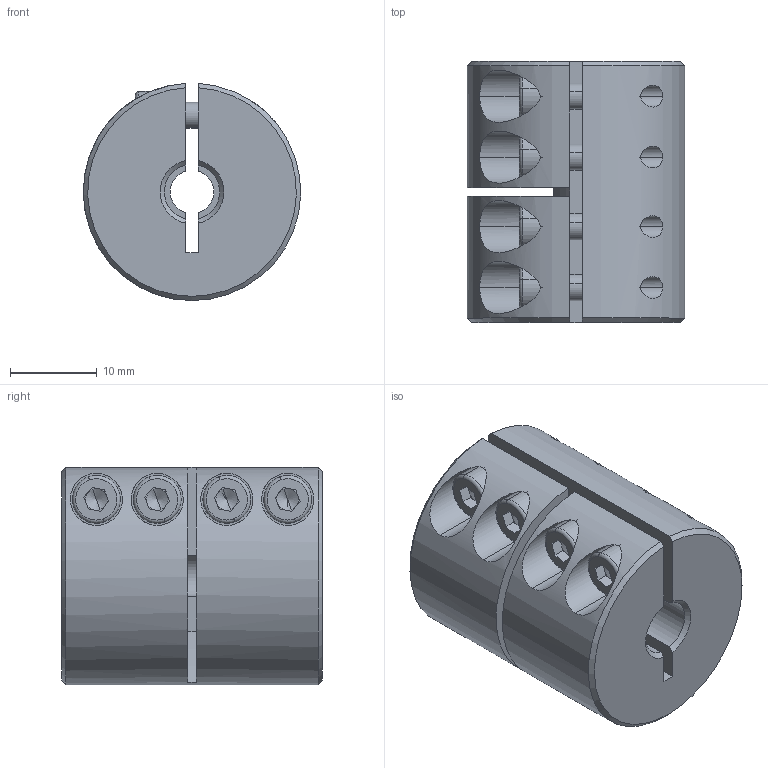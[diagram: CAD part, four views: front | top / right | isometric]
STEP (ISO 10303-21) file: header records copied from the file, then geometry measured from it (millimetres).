
FILE_DESCRIPTION (( 'STEP AP214' ), '1' );
FILE_NAME ('LL-B-D25L30-5-6.35½¨Ä£.STEP', '2022-07-21T03:03:38', ( '' ), ( '' ), 'SwSTEP 2.0', 'SolidWorks 2022', '' );
FILE_SCHEMA (( 'AUTOMOTIVE_DESIGN' ));
Length unit declared in the file: millimetre
Products named in the file (1): LL-B-D25L30-5-6.35膘耀
Bounding box: 24.99 x 30 x 24.98 mm (x, y, z)
Volume: 12716.1 mm3; surface area: 5906.3 mm2
Topology: 1 solids, 1 shells, 164 faces, 418 edges, 264 vertices
Faces by surface type: plane 83, cylinder 58, cone 15, torus 8
Entity records: 5402 total; most frequent: CARTESIAN_POINT 1363, DIRECTION 862, ORIENTED_EDGE 820, EDGE_CURVE 410, AXIS2_PLACEMENT_3D 331, VERTEX_POINT 264, VECTOR 200, LINE 200
